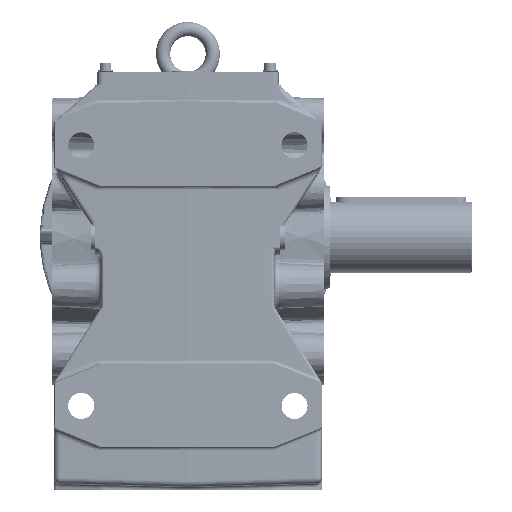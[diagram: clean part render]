
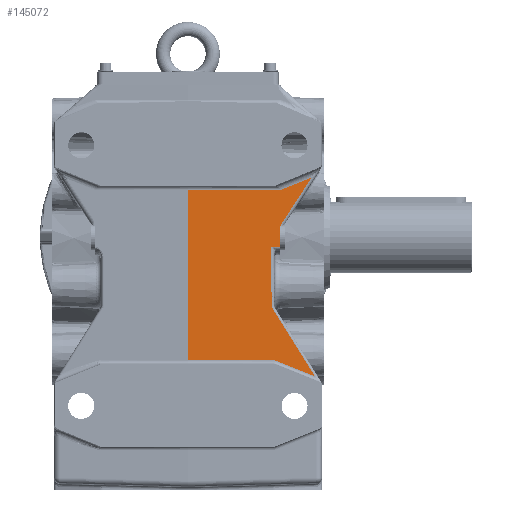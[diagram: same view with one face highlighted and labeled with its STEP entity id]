
A CAD part, left-side view. The second image highlights one B-rep face of the part: STEP entity #145072.
In plain terms, the highlighted planar face has unit normal (-1, -0.026, 0).
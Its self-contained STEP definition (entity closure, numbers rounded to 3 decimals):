
#84644=CARTESIAN_POINT('',(-128.064,-70.565,-46.049));
#84645=VERTEX_POINT('',#84644);
#84670=CARTESIAN_POINT('',(-128.064,-70.565,-8.048));
#84671=VERTEX_POINT('',#84670);
#84681=CARTESIAN_POINT('',(-128.064,-70.565,-8.048));
#84682=DIRECTION('',(0.0,0.0,-1.0));
#84683=VECTOR('',#84682,38.001);
#84684=LINE('',#84681,#84683);
#84685=EDGE_CURVE('',#84671,#84645,#84684,.T.);
#84727=CARTESIAN_POINT('',(-127.177,-104.418,50.274));
#84728=VERTEX_POINT('',#84727);
#84736=CARTESIAN_POINT('',(-127.854,-78.565,10.465));
#84737=VERTEX_POINT('',#84736);
#84738=CARTESIAN_POINT('',(-127.177,-104.418,50.274));
#84739=DIRECTION('',(-0.014,0.545,-0.839));
#84740=VECTOR('',#84739,47.472);
#84741=LINE('',#84738,#84740);
#84742=EDGE_CURVE('',#84728,#84737,#84741,.T.);
#85083=CARTESIAN_POINT('',(-127.85,-78.733,40.));
#85084=VERTEX_POINT('',#85083);
#85098=CARTESIAN_POINT('',(-127.85,-78.733,40.));
#85099=DIRECTION('',(0.024,-0.928,0.371));
#85100=VECTOR('',#85099,27.672);
#85101=LINE('',#85098,#85100);
#85102=EDGE_CURVE('',#85084,#84728,#85101,.T.);
#91227=CARTESIAN_POINT('',(-129.912,0.,40.));
#91228=VERTEX_POINT('',#91227);
#91236=CARTESIAN_POINT('',(-129.912,0.,40.));
#91237=DIRECTION('',(0.026,-1.,0.));
#91238=VECTOR('',#91237,78.76);
#91239=LINE('',#91236,#91238);
#91240=EDGE_CURVE('',#91228,#85084,#91239,.T.);
#105069=CARTESIAN_POINT('',(-127.987,-73.499,-104.));
#105070=VERTEX_POINT('',#105069);
#105078=CARTESIAN_POINT('',(-129.912,0.,-104.));
#105079=VERTEX_POINT('',#105078);
#105080=CARTESIAN_POINT('',(-127.987,-73.499,-104.));
#105081=DIRECTION('',(-0.026,1.,0.));
#105082=VECTOR('',#105081,73.524);
#105083=LINE('',#105080,#105082);
#105084=EDGE_CURVE('',#105070,#105079,#105083,.T.);
#105243=CARTESIAN_POINT('',(-127.103,-107.26,-117.504));
#105244=VERTEX_POINT('',#105243);
#105252=CARTESIAN_POINT('',(-127.103,-107.26,-117.504));
#105253=DIRECTION('',(-0.024,0.928,0.371));
#105254=VECTOR('',#105253,36.372);
#105255=LINE('',#105252,#105254);
#105256=EDGE_CURVE('',#105244,#105070,#105255,.T.);
#105440=CARTESIAN_POINT('',(-128.024,-72.087,-61.215));
#105441=VERTEX_POINT('',#105440);
#105449=CARTESIAN_POINT('',(-128.024,-72.087,-61.215));
#105450=DIRECTION('',(0.014,-0.53,-0.848));
#105451=VECTOR('',#105450,66.381);
#105452=LINE('',#105449,#105451);
#105453=EDGE_CURVE('',#105441,#105244,#105452,.T.);
#105526=CARTESIAN_POINT('',(-128.064,-70.565,-46.049));
#105527=CARTESIAN_POINT('',(-128.064,-70.566,-46.058));
#105528=CARTESIAN_POINT('',(-128.064,-70.566,-46.068));
#105529=CARTESIAN_POINT('',(-128.063,-70.588,-47.1));
#105530=CARTESIAN_POINT('',(-128.062,-70.632,-49.146));
#105531=CARTESIAN_POINT('',(-128.06,-70.692,-51.703));
#105532=CARTESIAN_POINT('',(-128.059,-70.752,-53.749));
#105533=CARTESIAN_POINT('',(-128.057,-70.805,-55.283));
#105534=CARTESIAN_POINT('',(-128.055,-70.883,-56.815));
#105535=CARTESIAN_POINT('',(-128.052,-71.009,-58.347));
#105536=CARTESIAN_POINT('',(-128.043,-71.364,-59.847));
#105537=CARTESIAN_POINT('',(-128.031,-71.815,-60.781));
#105538=CARTESIAN_POINT('',(-128.024,-72.087,-61.215));
#105539=B_SPLINE_CURVE_WITH_KNOTS('',3,(#105526,#105527,#105528,#105529,#105530,#105531,#105532,#105533,#105534,#105535,#105536,#105537,#105538),.UNSPECIFIED.,.F.,.U.,(4,2,1,1,1,1,1,1,1,4),(-0.003,0.0,0.307,0.614,0.767,0.921,1.074,1.228,1.381,1.535),.UNSPECIFIED.);
#105540=EDGE_CURVE('',#84645,#105441,#105539,.T.);
#145003=CARTESIAN_POINT('',(-127.854,-78.565,9.191));
#145004=VERTEX_POINT('',#145003);
#145017=CARTESIAN_POINT('',(-127.854,-78.565,10.465));
#145018=DIRECTION('',(0.0,0.0,-1.0));
#145019=VECTOR('',#145018,1.274);
#145020=LINE('',#145017,#145019);
#145021=EDGE_CURVE('',#84737,#145004,#145020,.T.);
#145026=CARTESIAN_POINT('',(-129.911,-0.025,-208.));
#145027=DIRECTION('',(-1.,-0.026,0.));
#145028=DIRECTION('',(0.0,0.0,1.0));
#145029=AXIS2_PLACEMENT_3D('',#145026,#145027,#145028);
#145030=PLANE('',#145029);
#145031=CARTESIAN_POINT('',(-127.869,-78.,-8.274));
#145032=VERTEX_POINT('',#145031);
#145033=CARTESIAN_POINT('',(-127.869,-78.,9.172));
#145034=VERTEX_POINT('',#145033);
#145035=CARTESIAN_POINT('',(-127.869,-78.,-8.274));
#145036=DIRECTION('',(0.0,0.0,1.0));
#145037=VECTOR('',#145036,17.446);
#145038=LINE('',#145035,#145037);
#145039=EDGE_CURVE('',#145032,#145034,#145038,.T.);
#145040=ORIENTED_EDGE('',*,*,#145039,.T.);
#145041=CARTESIAN_POINT('',(-116.,-531.262,0.));
#145042=DIRECTION('',(1.,0.026,0.));
#145043=DIRECTION('',(-0.026,1.,0.));
#145044=AXIS2_PLACEMENT_3D('',#145041,#145042,#145043);
#145045=ELLIPSE('',#145044,573.023,15.);
#145046=EDGE_CURVE('',#145034,#145004,#145045,.T.);
#145047=ORIENTED_EDGE('',*,*,#145046,.T.);
#145048=ORIENTED_EDGE('',*,*,#145021,.F.);
#145049=ORIENTED_EDGE('',*,*,#84742,.F.);
#145050=ORIENTED_EDGE('',*,*,#85102,.F.);
#145051=ORIENTED_EDGE('',*,*,#91240,.F.);
#145052=CARTESIAN_POINT('',(-129.912,0.,40.));
#145053=DIRECTION('',(0.0,0.0,-1.0));
#145054=VECTOR('',#145053,144.0);
#145055=LINE('',#145052,#145054);
#145056=EDGE_CURVE('',#91228,#105079,#145055,.T.);
#145057=ORIENTED_EDGE('',*,*,#145056,.T.);
#145058=ORIENTED_EDGE('',*,*,#105084,.F.);
#145059=ORIENTED_EDGE('',*,*,#105256,.F.);
#145060=ORIENTED_EDGE('',*,*,#105453,.F.);
#145061=ORIENTED_EDGE('',*,*,#105540,.F.);
#145062=ORIENTED_EDGE('',*,*,#84685,.F.);
#145063=CARTESIAN_POINT('',(-118.499,-435.823,0.));
#145064=DIRECTION('',(1.,0.026,0.));
#145065=DIRECTION('',(-0.026,1.,0.));
#145066=AXIS2_PLACEMENT_3D('',#145063,#145064,#145065);
#145067=ELLIPSE('',#145066,477.519,12.5);
#145068=EDGE_CURVE('',#145032,#84671,#145067,.T.);
#145069=ORIENTED_EDGE('',*,*,#145068,.F.);
#145070=EDGE_LOOP('',(#145040,#145047,#145048,#145049,#145050,#145051,#145057,#145058,#145059,#145060,#145061,#145062,#145069));
#145071=FACE_OUTER_BOUND('',#145070,.T.);
#145072=ADVANCED_FACE('',(#145071),#145030,.T.);
